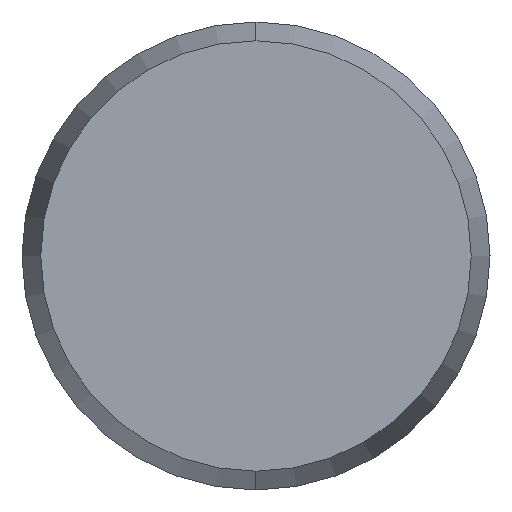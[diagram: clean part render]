
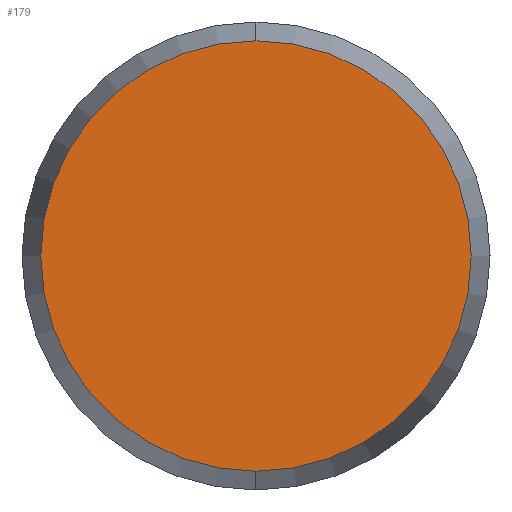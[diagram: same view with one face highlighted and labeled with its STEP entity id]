
A CAD part, left-side view. The second image highlights one B-rep face of the part: STEP entity #179.
In plain terms, the highlighted planar face has unit normal (-1, 0, 0).
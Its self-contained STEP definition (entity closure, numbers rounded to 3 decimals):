
#91 = DIRECTION ( 'NONE',  ( 0., 0., -1. ) ) ;
#92 = DIRECTION ( 'NONE',  ( 1., 0., 0. ) ) ;
#93 = CARTESIAN_POINT ( 'NONE',  ( -27.5, 0., 0. ) ) ;
#94 = CIRCLE ( 'NONE', #95, 3.678 ) ;
#95 = AXIS2_PLACEMENT_3D ( 'NONE', #93, #92, #91 ) ;
#102 = PLANE ( 'NONE',  #104 ) ;
#103 = CARTESIAN_POINT ( 'NONE',  ( -27.5, 0., 0. ) ) ;
#104 = AXIS2_PLACEMENT_3D ( 'NONE', #103, #106, #105 ) ;
#105 = DIRECTION ( 'NONE',  ( 0., 0., -1. ) ) ;
#106 = DIRECTION ( 'NONE',  ( 1., 0., 0. ) ) ;
#112 = FACE_OUTER_BOUND ( 'NONE', #184, .T. ) ;
#114 = AXIS2_PLACEMENT_3D ( 'NONE', #117, #118, #115 ) ;
#115 = DIRECTION ( 'NONE',  ( 0., 0., -1. ) ) ;
#116 = CIRCLE ( 'NONE', #114, 3.678 ) ;
#117 = CARTESIAN_POINT ( 'NONE',  ( -27.5, 0., 0. ) ) ;
#118 = DIRECTION ( 'NONE',  ( 1., 0., 0. ) ) ;
#119 = CARTESIAN_POINT ( 'NONE',  ( -27.5, 0., 3.678 ) ) ;
#120 = CARTESIAN_POINT ( 'NONE',  ( -27.5, 0., -3.678 ) ) ;
#173 = ORIENTED_EDGE ( 'NONE', *, *, #182, .F. ) ;
#177 = ORIENTED_EDGE ( 'NONE', *, *, #217, .F. ) ;
#179 = ADVANCED_FACE ( 'NONE', ( #112 ), #102, .F. ) ;
#182 = EDGE_CURVE ( 'NONE', #214, #215, #116, .T. ) ;
#184 = EDGE_LOOP ( 'NONE', ( #177, #173 ) ) ;
#214 = VERTEX_POINT ( 'NONE', #120 ) ;
#215 = VERTEX_POINT ( 'NONE', #119 ) ;
#217 = EDGE_CURVE ( 'NONE', #215, #214, #94, .T. ) ;
